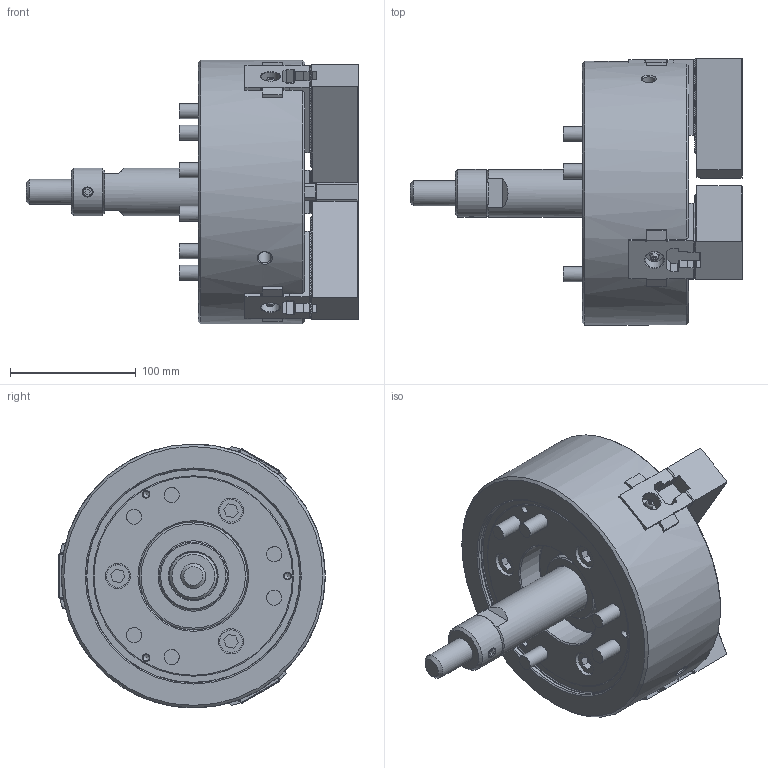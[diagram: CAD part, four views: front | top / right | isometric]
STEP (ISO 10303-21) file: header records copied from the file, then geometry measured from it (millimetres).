
FILE_DESCRIPTION (( 'STEP AP214' ), '1' );
FILE_NAME ('N-08_UC.STEP', '2020-01-23T23:57:44', ( '' ), ( '' ), 'SwSTEP 2.0', 'SolidWorks 2017', '' );
FILE_SCHEMA (( 'AUTOMOTIVE_DESIGN' ));
Length unit declared in the file: millimetre
Products named in the file (18): Part3^61P266459_1 僋儈僞僥_^_e_棉太倌I佱UA; 俛傾僫僣僉 M12x3512x35_B迸路 M12X3512X35; 俛傾僫僣僉 M12x3512x35; 61P3042911 ソフトジョー_W_‡_[; 61P4007445 T僫僢僩b_g; 61P4007445 T僫僢僩b_g_棉太倌佱UA; 61P3042911 ソフトジョー_W_‡_[_ﾃﾞﾌｫﾙﾄ_ATI≪UA; Part3^61P266459_1 クミタテ_^_e; N-08_UC
Assembly tree (13 placements, depth 2):
  俛傾僫僣僉 M12x3512x35
  俛傾僫僣僉 M12x3512x35
  俛傾僫僣僉 M12x3512x35
  61P3042911 ソフトジョー_W_‡_[
  61P4007445 T僫僢僩b_g
Bounding box: 264.2 x 212.05 x 210 mm (x, y, z)
Volume: 3126232 mm3; surface area: 337750.6 mm2
Topology: 13 solids, 19 shells, 2711 faces, 7646 edges, 5064 vertices
Faces by surface type: plane 2378, cylinder 186, cone 115, torus 24, sphere 6, bspline 2
Full cylindrical faces by diameter (mm): 1.9 x3, 5 x3, 6 x3, 8 x1, 8.5 x3, 8.8 x2, 9.5 x3, 10 x2, 10.2 x6, 12 x18, 13 x6, 15 x3, 18 x15, 19 x6, 20 x10, 25 x1, 27 x1, 28 x1, 29 x1, 38 x2, 54 x1, 86 x1, 170 x1, 171 x1, 210 x1
Entity records: 62498 total; most frequent: CARTESIAN_POINT 12874, ORIENTED_EDGE 10570, DIRECTION 9478, EDGE_CURVE 5285, VECTOR 4462, LINE 4462, VERTEX_POINT 3550, AXIS2_PLACEMENT_3D 2508
